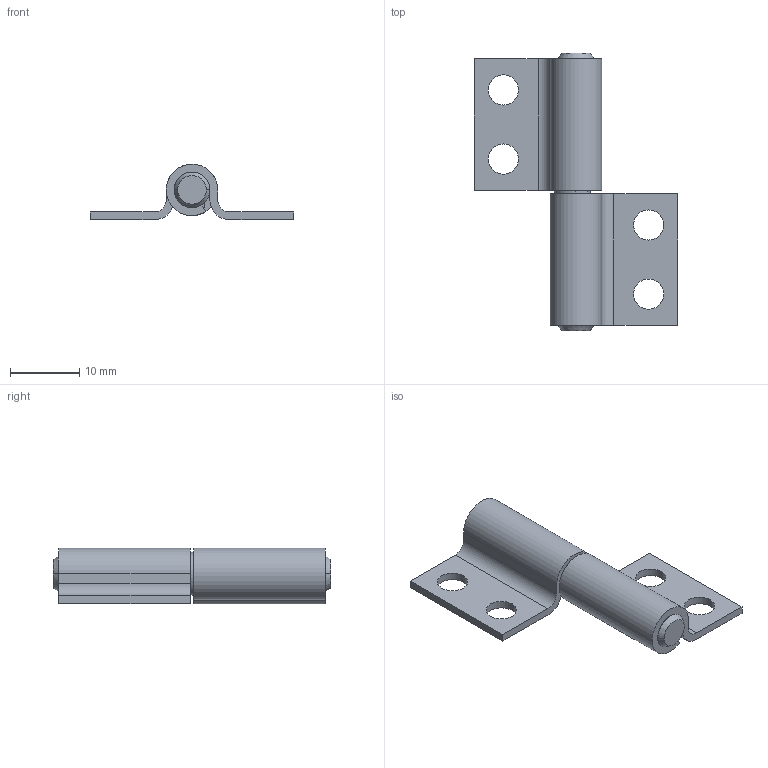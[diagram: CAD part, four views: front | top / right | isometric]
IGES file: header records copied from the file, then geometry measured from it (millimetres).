
Start section: 3D InterOp IGES (v. 2022 1.0.0), Spatial Corp. Copyright (c) 1999-2020.
Global section: file name: SB-200-SB-112-TORQMASTER-HINGE-ASSEMBLY.igs; native system: Spatial Corp.; preprocessor: 3D InterOp GENERIC/IGES 3.0; author: Noname; organization: Noname; date: 20250627.094014; units: inch
Bounding box: 29.39 x 40.18 x 8.05 mm (x, y, z)
Volume: 2109.3 mm3; surface area: 3247.4 mm2
Topology: 4 solids, 4 shells, 64 faces, 158 edges, 104 vertices
Faces by surface type: cylinder 32, extrusion 28, cone 4
